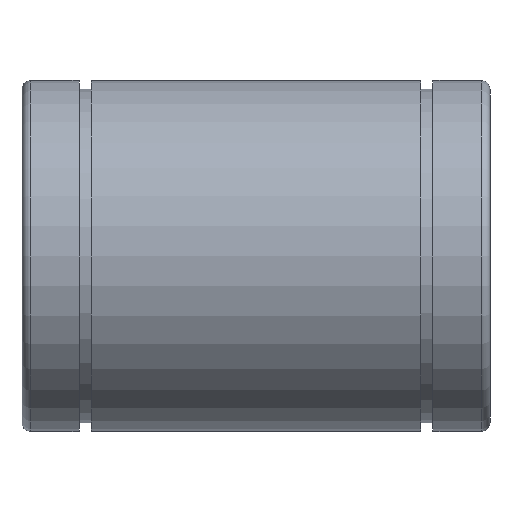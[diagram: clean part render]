
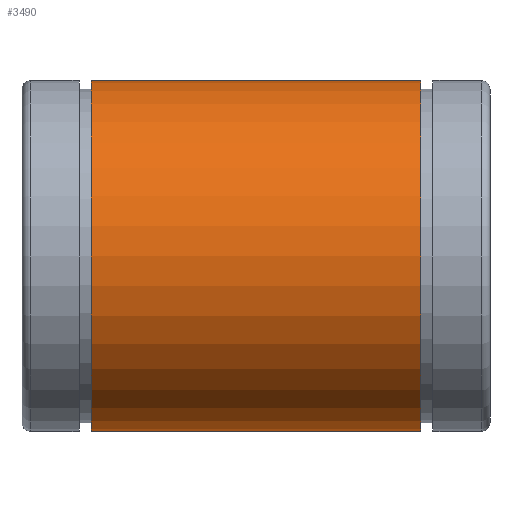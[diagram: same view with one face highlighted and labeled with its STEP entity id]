
A CAD part, front view. The second image highlights one B-rep face of the part: STEP entity #3490.
In plain terms, the highlighted cylindrical face has radius 30 mm (diameter 60 mm), a full revolution.
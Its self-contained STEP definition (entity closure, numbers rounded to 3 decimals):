
#23=CYLINDRICAL_SURFACE('',#3642,30.);
#38=CIRCLE('',#3643,30.);
#39=CIRCLE('',#3644,30.);
#68=FACE_BOUND('',#505,.T.);
#298=FACE_OUTER_BOUND('',#504,.T.);
#504=EDGE_LOOP('',(#3104));
#505=EDGE_LOOP('',(#3105));
#1684=VERTEX_POINT('',#6045);
#1685=VERTEX_POINT('',#6047);
#2164=EDGE_CURVE('',#1684,#1684,#38,.T.);
#2165=EDGE_CURVE('',#1685,#1685,#39,.T.);
#3104=ORIENTED_EDGE('',*,*,#2164,.F.);
#3105=ORIENTED_EDGE('',*,*,#2165,.T.);
#3490=ADVANCED_FACE('',(#298,#68),#23,.T.);
#3642=AXIS2_PLACEMENT_3D('',#6044,#4316,#4317);
#3643=AXIS2_PLACEMENT_3D('',#6046,#4318,#4319);
#3644=AXIS2_PLACEMENT_3D('',#6048,#4320,#4321);
#4316=DIRECTION('center_axis',(1.,0.,0.));
#4317=DIRECTION('ref_axis',(0.,1.,0.));
#4318=DIRECTION('center_axis',(1.,0.,0.));
#4319=DIRECTION('ref_axis',(0.,1.,0.));
#4320=DIRECTION('center_axis',(1.,0.,0.));
#4321=DIRECTION('ref_axis',(0.,1.,0.));
#6044=CARTESIAN_POINT('Origin',(0.,0.,0.));
#6045=CARTESIAN_POINT('',(28.15,-30.,0.));
#6046=CARTESIAN_POINT('Origin',(28.15,0.,0.));
#6047=CARTESIAN_POINT('',(-28.15,-30.,0.));
#6048=CARTESIAN_POINT('Origin',(-28.15,0.,0.));
